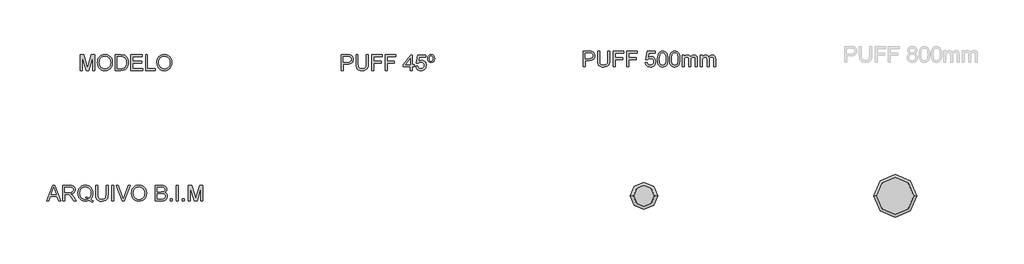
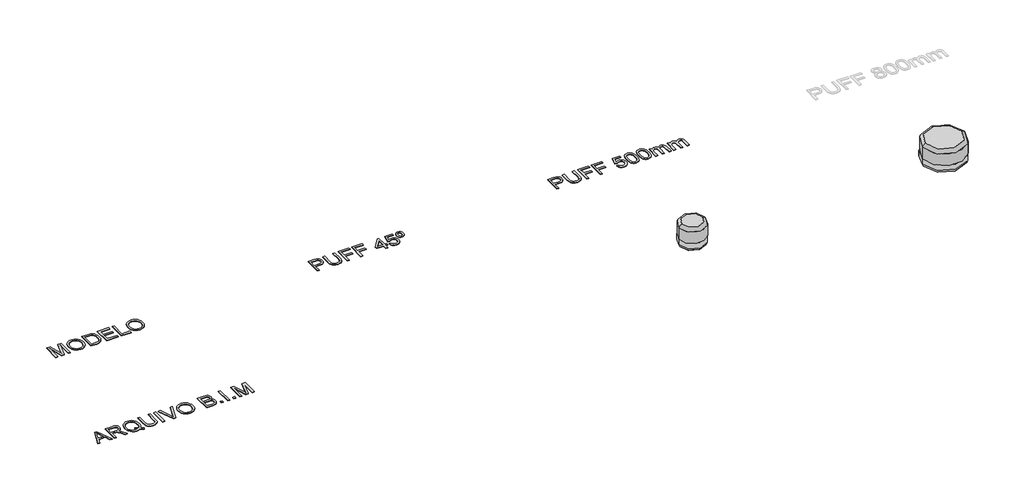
# One storey, part 1 of 4: 4 proxies, 2 furniture elements.
"""IFC4 building model written with IfcOpenShell, lengths in millimetres."""

from ifc_helpers import new_model, si_unit, origin, origin_with_axes, place, context, project, spatial, polyline, outline, extrude, transform, mapped, element, save
from components import furniture_e61064c9, furniture_355175a6

model = new_model("IFC4")

# Units and contexts
model_context = context("Model", 3, world=origin())
ifc_project = project(units=[si_unit("LENGTHUNIT", "METRE", prefix="MILLI")], contexts=[model_context])

# Site, building, storey
site = spatial("IfcSite", under=ifc_project)
building = spatial("IfcBuilding", under=site)
storey = spatial("IfcBuildingStorey", under=building, Name="Marelli - Linha BLEND - Planta Baixa", Elevation=0.0)

# Proxies
placement = place(None, origin())
element("IfcBuildingElementProxy", 1, Name="300mm Arial", ObjectType="300mm Arial", at=placement, inside=storey, context=model_context, shape_type="SweptSolid", body=[
    extrude(outline(polyline([(-14976.2946843, -1280.5663201), (-14976.2946843, -979.1973896), (-14864.6057106, -979.1973896), (-14819.5769543, -982.0668692), (-14799.4997945, -987.4287493), (-14782.9726958, -996.1567496), (-14769.6645646, -1008.6463433), (-14759.2443071, -1025.2930036), (-14752.5120666, -1044.9287051), (-14750.2679865, -1066.3854225), (-14751.7832004, -1084.8852883), (-14756.3288423, -1101.9044291), (-14763.9049122, -1117.4428449), (-14774.5114099, -1131.5005356), (-14789.0726392, -1143.1531978), (-14808.5129033, -1151.476528), (-14832.8322025, -1156.470526), (-14862.0305366, -1158.1351921), (-14938.623568, -1158.1351921), (-14938.623568, -1280.5663201), (-14976.2946843, -1280.5663201)]), holes=[polyline([(-14938.623568, -1120.4640758), (-14859.8232446, -1120.4640758), (-14826.4195595, -1117.005985), (-14804.3466397, -1106.6317127), (-14792.040987, -1089.9850525), (-14787.9391028, -1067.7097977), (-14790.3579269, -1050.7872259), (-14797.6143992, -1036.5134045), (-14808.8072089, -1025.7712502), (-14823.0350451, -1019.4436799), (-14860.7061614, -1016.8685059), (-14938.623568, -1016.8685059), (-14938.623568, -1120.4640758)])]), origin_with_axes(), (0.0, 0.0, 1.0), 10.0),
    extrude(outline(polyline([(-14500.6968409, -979.1973896), (-14463.0257246, -979.1973896), (-14463.0257246, -1153.0584205), (-14465.5825045, -1193.7737604), (-14473.2528441, -1225.1265034), (-14487.5818478, -1249.3147446), (-14510.11462, -1268.5365788), (-14540.906343, -1281.0905519), (-14580.0121991, -1285.2752096), (-14618.2627295, -1281.6331779), (-14648.8429204, -1270.7070826), (-14671.7619687, -1252.8740029), (-14687.0290715, -1228.5110178), (-14695.609919, -1195.8338995), (-14698.4702015, -1153.0584205), (-14698.4702015, -979.1973896), (-14660.7990852, -979.1973896), (-14660.7990852, -1151.7340454), (-14658.9412811, -1185.588386), (-14653.3678689, -1209.1604248), (-14643.2695082, -1225.4851883), (-14627.8368585, -1237.597703), (-14607.7137133, -1245.1024957), (-14583.5438662, -1247.6040933), (-14545.2289564, -1242.6560805), (-14530.8861572, -1236.4710644), (-14519.7531283, -1227.812042), (-14511.4160026, -1215.6351479), (-14505.4609128, -1198.8965171), (-14500.6968409, -1151.7340454), (-14500.6968409, -979.1973896)])), origin_with_axes(), (0.0, 0.0, 1.0), 10.0),
    extrude(outline(polyline([(-14397.1012711, -1280.5663201), (-14397.1012711, -979.1973896), (-14194.6190209, -979.1973896), (-14194.6190209, -1016.8685059), (-14359.4301548, -1016.8685059), (-14359.4301548, -1106.3374072), (-14218.1634686, -1106.3374072), (-14218.1634686, -1144.0085235), (-14359.4301548, -1144.0085235), (-14359.4301548, -1280.5663201), (-14397.1012711, -1280.5663201)])), origin_with_axes(), (0.0, 0.0, 1.0), 10.0),
    extrude(outline(polyline([(-14142.821236, -1280.5663201), (-14142.821236, -979.1973896), (-13940.3389859, -979.1973896), (-13940.3389859, -1016.8685059), (-14105.1501197, -1016.8685059), (-14105.1501197, -1106.3374072), (-13963.8834336, -1106.3374072), (-13963.8834336, -1144.0085235), (-14105.1501197, -1144.0085235), (-14105.1501197, -1280.5663201), (-14142.821236, -1280.5663201)])), origin_with_axes(), (0.0, 0.0, 1.0), 10.0),
    extrude(outline(polyline([(-13662.5145031, -1280.5663201), (-13662.5145031, -1209.932977), (-13799.0722997, -1209.932977), (-13799.0722997, -1172.2618607), (-13653.096724, -983.9062792), (-13624.8433868, -983.9062792), (-13624.8433868, -1172.2618607), (-13587.1722705, -1172.2618607), (-13587.1722705, -1209.932977), (-13624.8433868, -1209.932977), (-13624.8433868, -1280.5663201), (-13662.5145031, -1280.5663201)]), holes=[polyline([(-13662.5145031, -1172.2618607), (-13662.5145031, -1055.8639974), (-13752.7191683, -1172.2618607), (-13662.5145031, -1172.2618607)])]), origin_with_axes(), (0.0, 0.0, 1.0), 10.0),
    extrude(outline(polyline([(-13554.2100437, -1200.5151979), (-13516.5389274, -1195.8063084), (-13509.6227459, -1218.421854), (-13497.5562165, -1234.6178589), (-13480.3945214, -1244.3575347), (-13458.192843, -1247.6040933), (-13431.1903045, -1243.0883418), (-13410.9567948, -1229.5410873), (-13398.3200483, -1208.5258284), (-13394.1077994, -1181.6060634), (-13398.0533338, -1156.2589939), (-13409.889937, -1136.8716128), (-13429.7095795, -1124.56596), (-13457.6042318, -1120.4640758), (-13475.8787699, -1122.1011506), (-13490.6768232, -1127.0123753), (-13511.8300379, -1144.0085235), (-13549.5011542, -1139.2996339), (-13516.5389274, -983.9062792), (-13370.5633517, -983.9062792), (-13370.5633517, -1021.5773955), (-13486.0782982, -1021.5773955), (-13502.1915296, -1104.5715736), (-13475.2809617, -1088.237613), (-13447.0828067, -1082.7929595), (-13428.7369915, -1084.4806181), (-13411.8856968, -1089.5435941), (-13396.5289228, -1097.9818873), (-13382.6666694, -1109.7954979), (-13371.1910504, -1124.2624574), (-13362.9941797, -1140.6607973), (-13358.0760573, -1158.9905177), (-13356.4366831, -1179.2516186), (-13362.3411891, -1216.9227349), (-13369.7218217, -1233.716548), (-13380.0547072, -1249.1491977), (-13395.7080861, -1264.9543279), (-13413.9734272, -1276.2437066), (-13434.8507304, -1283.0173339), (-13458.3399958, -1285.2752096), (-13495.3397275, -1279.4718711), (-13511.0183982, -1272.217698), (-13524.8162723, -1262.0618557), (-13536.2964898, -1249.5101819), (-13545.0221909, -1235.0685143), (-13554.2100437, -1200.5151979)])), origin_with_axes(), (0.0, 0.0, 1.0), 10.0),
    extrude(outline(polyline([(-13264.6133371, -974.4885001), (-13237.2245226, -979.6572421), (-13215.3907262, -995.1634682), (-13201.0985107, -1019.7747737), (-13196.3344388, -1052.2587539), (-13201.1261018, -1084.6323694), (-13215.5010908, -1109.2068867), (-13237.307296, -1124.7131128), (-13264.3926079, -1129.8818548), (-13291.8090136, -1124.8142804), (-13313.7255835, -1109.6115569), (-13328.1005724, -1085.3589364), (-13332.8922354, -1053.1416706), (-13328.1281636, -1019.9955029), (-13313.8359481, -995.1634682), (-13292.0021517, -979.6572421), (-13264.6133371, -974.4885001)]), holes=[polyline([(-13264.6133371, -1002.7418373), (-13277.0385515, -1005.638908), (-13286.7966214, -1014.3301202), (-13293.1149947, -1029.5880259), (-13295.2211191, -1052.1851775), (-13293.0782065, -1074.3684618), (-13286.6494686, -1089.709141), (-13276.8546105, -1098.6486735), (-13264.6133371, -1101.6285176), (-13252.2800932, -1098.6486735), (-13242.5036292, -1089.709141), (-13236.1300737, -1074.1109444), (-13234.0055551, -1051.1551079), (-13236.1484678, -1029.60642), (-13242.5772056, -1014.5508494), (-13252.3720637, -1005.6940903), (-13264.6133371, -1002.7418373)])]), origin_with_axes(), (0.0, 0.0, 1.0), 10.0),
])
element("IfcBuildingElementProxy", 2, Name="300mm Arial", ObjectType="300mm Arial", at=placement, inside=storey, context=model_context, shape_type="SweptSolid", body=[
    extrude(outline(polyline([(-20609.419598, -3780.5663201), (-20489.1221856, -3479.1973896), (-20457.0428756, -3479.1973896), (-20336.7454632, -3780.5663201), (-20376.550295, -3780.5663201), (-20411.0576262, -3686.3885293), (-20535.1810114, -3686.3885293), (-20569.6147661, -3780.5663201), (-20609.419598, -3780.5663201)]), holes=[polyline([(-20521.3486483, -3648.717413), (-20424.8164128, -3648.717413), (-20451.9661041, -3574.6259792), (-20473.0825306, -3516.8685059), (-20491.8445123, -3568.1512561), (-20521.3486483, -3648.717413)])]), origin_with_axes(), (0.0, 0.0, 1.0), 10.0),
    extrude(outline(polyline([(-20296.4991729, -3780.5663201), (-20296.4991729, -3479.1973896), (-20166.6368286, -3479.1973896), (-20131.7340243, -3481.2299376), (-20106.3409696, -3487.3275817), (-20087.7813229, -3498.5847708), (-20073.3787428, -3516.0959537), (-20064.1357077, -3537.8101885), (-20061.054696, -3561.6765329), (-20066.1590587, -3591.3646099), (-20081.4721467, -3615.9759154), (-20093.0719259, -3626.0052983), (-20107.4538126, -3634.0205273), (-20144.5639089, -3644.0085235), (-20123.1531768, -3660.1217548), (-20092.6189712, -3698.8965171), (-20042.3662906, -3780.5663201), (-20086.144248, -3780.5663201), (-20125.3604687, -3718.0999573), (-20153.6873824, -3676.750021), (-20173.5897983, -3657.2154871), (-20191.5056515, -3650.0417882), (-20213.357842, -3648.717413), (-20258.8280566, -3648.717413), (-20258.8280566, -3780.5663201), (-20296.4991729, -3780.5663201)]), holes=[polyline([(-20258.8280566, -3611.0462967), (-20174.5095033, -3611.0462967), (-20150.293671, -3609.7127245), (-20131.5040981, -3605.7120078), (-20117.3590353, -3598.7774322), (-20107.0767336, -3588.6422832), (-20100.8135426, -3576.3826157), (-20098.7258123, -3563.0744845), (-20102.7081349, -3544.6987789), (-20114.6551027, -3529.8915286), (-20135.2105092, -3520.1242616), (-20165.0181478, -3516.8685059), (-20258.8280566, -3516.8685059), (-20258.8280566, -3611.0462967)])]), origin_with_axes(), (0.0, 0.0, 1.0), 10.0),
    extrude(outline(polyline([(-19768.7356626, -3744.4403081), (-19744.4002686, -3763.036743), (-19722.0146492, -3775.8574305), (-19732.1681923, -3803.4485802), (-19763.2358268, -3789.0460001), (-19794.1930967, -3768.205485), (-19829.0499157, -3781.0077785), (-19867.4016137, -3785.2752096), (-19905.9372527, -3780.3547879), (-19940.7572836, -3765.5935229), (-19969.9211287, -3741.9203165), (-19991.4882107, -3710.2640708), (-20004.814736, -3672.3630282), (-20009.2569111, -3629.9554312), (-20004.823933, -3587.511046), (-19991.5249989, -3549.0581805), (-19970.0406904, -3516.9512794), (-19941.0515892, -3493.5447874), (-19906.360317, -3479.2525719), (-19867.7694957, -3474.4885001), (-19828.8751718, -3479.3629365), (-19794.0091557, -3493.9862458), (-19765.0660397, -3517.3835407), (-19743.9404161, -3548.5799339), (-19731.0277581, -3585.9199564), (-19726.7235388, -3627.7481393), (-19729.3355009, -3662.5313819), (-19737.1713874, -3693.5990164), (-19750.2863806, -3720.9142546), (-19768.7356626, -3744.4403081)]), holes=[polyline([(-19857.0273415, -3694.3347804), (-19825.3527017, -3706.3093393), (-19799.784903, -3722.9559996), (-19784.3016695, -3705.4816049), (-19773.2422171, -3684.1076609), (-19766.6065456, -3658.8341679), (-19764.3946551, -3629.6611256), (-19767.521652, -3596.5057608), (-19776.9026429, -3567.8201623), (-19792.3077015, -3544.3308969), (-19813.5069014, -3526.7645316), (-19839.065503, -3515.8108452), (-19867.5487665, -3512.1596164), (-19889.033075, -3514.0059242), (-19908.6043972, -3519.5448474), (-19926.2627329, -3528.7763863), (-19942.0080823, -3541.7005406), (-19954.9483315, -3558.2897193), (-19964.1913666, -3578.5163313), (-19969.7371877, -3602.3803764), (-19971.5857948, -3629.8818548), (-19969.7578811, -3656.6659634), (-19964.2741401, -3680.1437324), (-19955.1345718, -3700.3151621), (-19942.3391761, -3717.1802523), (-19926.7018921, -3730.4906827), (-19909.0366585, -3739.998133), (-19889.3434755, -3745.7026032), (-19867.6223429, -3747.6040933), (-19846.7082515, -3745.6727128), (-19827.081747, -3739.8785714), (-19846.3771577, -3729.853787), (-19866.7394261, -3723.1767288), (-19857.0273415, -3694.3347804)])]), origin_with_axes(), (0.0, 0.0, 1.0), 10.0),
    extrude(outline(polyline([(-19472.4435037, -3479.1973896), (-19434.7723874, -3479.1973896), (-19434.7723874, -3653.0584205), (-19437.3291673, -3693.7737604), (-19444.9995069, -3725.1265034), (-19459.3285106, -3749.3147446), (-19481.8612828, -3768.5365788), (-19512.6530058, -3781.0905519), (-19551.7588619, -3785.2752096), (-19590.0093923, -3781.6331779), (-19620.5895832, -3770.7070826), (-19643.5086315, -3752.8740029), (-19658.7757343, -3728.5110178), (-19667.3565818, -3695.8338995), (-19670.2168643, -3653.0584205), (-19670.2168643, -3479.1973896), (-19632.545748, -3479.1973896), (-19632.545748, -3651.7340454), (-19630.6879439, -3685.588386), (-19625.1145317, -3709.1604248), (-19615.0161709, -3725.4851883), (-19599.5835212, -3737.597703), (-19579.4603761, -3745.1024957), (-19555.290529, -3747.6040933), (-19516.9756192, -3742.6560805), (-19502.6328199, -3736.4710644), (-19491.499791, -3727.812042), (-19483.1626653, -3715.6351479), (-19477.2075755, -3698.8965171), (-19472.4435037, -3651.7340454), (-19472.4435037, -3479.1973896)])), origin_with_axes(), (0.0, 0.0, 1.0), 10.0),
    extrude(outline(polyline([(-19364.1390443, -3780.5663201), (-19364.1390443, -3479.1973896), (-19326.467928, -3479.1973896), (-19326.467928, -3780.5663201), (-19364.1390443, -3780.5663201)])), origin_with_axes(), (0.0, 0.0, 1.0), 10.0),
    extrude(outline(polyline([(-19162.0982526, -3780.5663201), (-19282.027783, -3479.1973896), (-19241.7079163, -3479.1973896), (-19161.436065, -3696.3213432), (-19145.1756808, -3745.2496485), (-19129.1360258, -3696.3213432), (-19048.6434453, -3479.1973896), (-19008.3235786, -3479.1973896), (-19123.1763375, -3780.5663201), (-19162.0982526, -3780.5663201)])), origin_with_axes(), (0.0, 0.0, 1.0), 10.0),
    extrude(outline(polyline([(-18987.4278813, -3633.8549804), (-18984.9170866, -3598.5061192), (-18977.3847028, -3567.213157), (-18964.8307297, -3539.9760937), (-18947.2551674, -3516.7949295), (-18925.711078, -3498.2858666), (-18901.2515239, -3485.0651074), (-18873.8765049, -3477.1326519), (-18843.5860211, -3474.4885001), (-18804.0571008, -3479.454907), (-18768.6116705, -3494.3541278), (-18739.1811109, -3518.1376988), (-18717.6968024, -3549.7571563), (-18704.5634152, -3587.68579), (-18700.1856194, -3630.3968896), (-18704.7933414, -3673.6782064), (-18718.6165074, -3712.140269), (-18740.8917622, -3743.8149087), (-18770.8557507, -3766.733957), (-18805.9976783, -3780.6398965), (-18843.8067503, -3785.2752096), (-18883.942676, -3780.1524528), (-18919.5904413, -3764.7841825), (-18948.9474246, -3740.5591531), (-18970.2110039, -3708.8661192), (-18983.1236619, -3672.3998164), (-18987.4278813, -3633.8549804)]), holes=[polyline([(-18949.7567649, -3634.2228624), (-18947.873669, -3659.1974513), (-18942.2243811, -3681.3669401), (-18932.8089013, -3700.7313286), (-18919.6272295, -3717.2906169), (-18903.6036694, -3730.5527628), (-18885.6625243, -3740.0257242), (-18865.8037944, -3745.709501), (-18844.0274795, -3747.6040933), (-18821.8786842, -3745.6911069), (-18801.7854294, -3739.9521478), (-18783.7477154, -3730.3872159), (-18767.7655419, -3716.9963113), (-18754.6804392, -3700.0875351), (-18745.3339373, -3679.9689885), (-18739.7260361, -3656.6406715), (-18737.8567357, -3630.102584), (-18741.0573091, -3596.7540812), (-18750.6590292, -3567.9305269), (-18766.4135756, -3544.358488), (-18788.0726281, -3526.7645316), (-18814.2014468, -3515.8108452), (-18843.3652919, -3512.1596164), (-18864.3851494, -3513.9185522), (-18883.8874937, -3519.1953595), (-18901.8723248, -3527.9900385), (-18918.3396426, -3540.302589), (-18932.0846336, -3556.7262208), (-18941.9024844, -3577.8541437), (-18947.7931948, -3603.6863575), (-18949.7567649, -3634.2228624)])]), origin_with_axes(), (0.0, 0.0, 1.0), 10.0),
    extrude(outline(polyline([(-18530.665596, -3780.5663201), (-18530.665596, -3479.1973896), (-18415.6656844, -3479.1973896), (-18384.0370298, -3481.4138786), (-18359.3429509, -3488.0633457), (-18340.4154222, -3499.3113377), (-18326.0864185, -3515.3234015), (-18317.0641126, -3534.1589597), (-18314.0566773, -3553.8774346), (-18316.585866, -3572.0232141), (-18324.1734321, -3589.0837416), (-18336.874558, -3604.0105535), (-18354.7444259, -3615.7551862), (-18333.3980732, -3626.9020107), (-18317.6251326, -3643.8613707), (-18307.8854568, -3665.5112261), (-18304.6388982, -3690.7295368), (-18306.8553872, -3711.7447958), (-18313.5048543, -3731.2333445), (-18323.4284711, -3747.8064284), (-18335.4674094, -3760.0752929), (-18350.2102804, -3768.9596431), (-18368.2456952, -3775.3791839), (-18416.5486011, -3780.5663201), (-18530.665596, -3780.5663201)]), holes=[polyline([(-18492.9944797, -3601.6285176), (-18424.2005466, -3601.6285176), (-18384.0278328, -3598.3911561), (-18369.9655435, -3592.8085468), (-18359.8579857, -3584.4484284), (-18353.7603416, -3573.4395597), (-18351.7277936, -3559.9106994), (-18353.6223859, -3546.7773121), (-18359.3061627, -3535.3361821), (-18368.5216067, -3526.4058467), (-18381.0112004, -3520.8048433), (-18429.424471, -3516.8685059), (-18492.9944797, -3516.8685059), (-18492.9944797, -3601.6285176)]), polyline([(-18492.9944797, -3742.8952038), (-18415.7392607, -3742.8952038), (-18387.7802291, -3741.4236758), (-18364.1254168, -3733.2199073), (-18348.4536438, -3716.4812765), (-18343.8459218, -3704.6538704), (-18342.3100145, -3691.0974188), (-18344.1126363, -3675.3520694), (-18349.5205016, -3661.814012), (-18358.9658718, -3651.2282076), (-18372.8810083, -3644.3396173), (-18392.5902862, -3640.5596298), (-18419.4180807, -3639.2996339), (-18492.9944797, -3639.2996339), (-18492.9944797, -3742.8952038)])]), origin_with_axes(), (0.0, 0.0, 1.0), 10.0),
    extrude(outline(polyline([(-18248.1322237, -3780.5663201), (-18248.1322237, -3742.8952038), (-18210.4611074, -3742.8952038), (-18210.4611074, -3780.5663201), (-18248.1322237, -3780.5663201)])), origin_with_axes(), (0.0, 0.0, 1.0), 10.0),
    extrude(outline(polyline([(-18130.4099853, -3780.5663201), (-18130.4099853, -3479.1973896), (-18092.738869, -3479.1973896), (-18092.738869, -3780.5663201), (-18130.4099853, -3780.5663201)])), origin_with_axes(), (0.0, 0.0, 1.0), 10.0),
    extrude(outline(polyline([(-18012.6877468, -3780.5663201), (-18012.6877468, -3742.8952038), (-17975.0166305, -3742.8952038), (-17975.0166305, -3780.5663201), (-18012.6877468, -3780.5663201)])), origin_with_axes(), (0.0, 0.0, 1.0), 10.0),
    extrude(outline(polyline([(-17899.6743979, -3780.5663201), (-17899.6743979, -3479.1973896), (-17834.8535904, -3479.1973896), (-17773.196568, -3691.6124536), (-17760.7621565, -3735.9790223), (-17747.2976755, -3687.9336337), (-17686.6707227, -3479.1973896), (-17621.8499152, -3479.1973896), (-17621.8499152, -3780.5663201), (-17659.5210315, -3780.5663201), (-17659.5210315, -3516.8685059), (-17735.2311461, -3780.5663201), (-17786.293167, -3780.5663201), (-17862.0032816, -3516.8685059), (-17862.0032816, -3780.5663201), (-17899.6743979, -3780.5663201)])), origin_with_axes(), (0.0, 0.0, 1.0), 10.0),
])
element("IfcBuildingElementProxy", 3, Name="300mm Arial", ObjectType="300mm Arial", at=placement, inside=storey, context=model_context, shape_type="SweptSolid", body=[
    extrude(outline(polyline([(-19966.8769052, -1280.5663201), (-19966.8769052, -979.1973896), (-19902.0560977, -979.1973896), (-19840.3990753, -1191.6124536), (-19827.9646638, -1235.9790223), (-19814.5001828, -1187.9336337), (-19753.87323, -979.1973896), (-19689.0524225, -979.1973896), (-19689.0524225, -1280.5663201), (-19726.7235388, -1280.5663201), (-19726.7235388, -1016.8685059), (-19802.4336534, -1280.5663201), (-19853.4956743, -1280.5663201), (-19929.2057889, -1016.8685059), (-19929.2057889, -1280.5663201), (-19966.8769052, -1280.5663201)])), origin_with_axes(), (0.0, 0.0, 1.0), 10.0),
    extrude(outline(polyline([(-19637.2546375, -1133.8549804), (-19634.7438429, -1098.5061192), (-19627.2114591, -1067.213157), (-19614.657486, -1039.9760937), (-19597.0819237, -1016.7949295), (-19575.5378343, -998.2858666), (-19551.0782802, -985.0651074), (-19523.7032612, -977.1326519), (-19493.4127774, -974.4885001), (-19453.883857, -979.454907), (-19418.4384268, -994.3541278), (-19389.0078672, -1018.1376988), (-19367.5235587, -1049.7571563), (-19354.3901714, -1087.68579), (-19350.0123757, -1130.3968896), (-19354.6200977, -1173.6782064), (-19368.4432637, -1212.140269), (-19390.7185185, -1243.8149087), (-19420.682507, -1266.733957), (-19455.8244346, -1280.6398965), (-19493.6335066, -1285.2752096), (-19533.7694323, -1280.1524528), (-19569.4171976, -1264.7841825), (-19598.7741808, -1240.5591531), (-19620.0377602, -1208.8661192), (-19632.9504182, -1172.3998164), (-19637.2546375, -1133.8549804)]), holes=[polyline([(-19599.5835212, -1134.2228624), (-19597.7004253, -1159.1974513), (-19592.0511374, -1181.3669401), (-19582.6356576, -1200.7313286), (-19569.4539858, -1217.2906169), (-19553.4304257, -1230.5527628), (-19535.4892806, -1240.0257242), (-19515.6305507, -1245.709501), (-19493.8542358, -1247.6040933), (-19471.7054404, -1245.6911069), (-19451.6121857, -1239.9521478), (-19433.5744716, -1230.3872159), (-19417.5922982, -1216.9963113), (-19404.5071955, -1200.0875351), (-19395.1606936, -1179.9689885), (-19389.5527924, -1156.6406715), (-19387.683492, -1130.102584), (-19390.8840654, -1096.7540812), (-19400.4857854, -1067.9305269), (-19416.2403319, -1044.358488), (-19437.8993843, -1026.7645316), (-19464.0282031, -1015.8108452), (-19493.1920482, -1012.1596164), (-19514.2119057, -1013.9185522), (-19533.71425, -1019.1953595), (-19551.699081, -1027.9900385), (-19568.1663988, -1040.302589), (-19581.9113899, -1056.7262208), (-19591.7292406, -1077.8541437), (-19597.6199511, -1103.6863575), (-19599.5835212, -1134.2228624)])]), origin_with_axes(), (0.0, 0.0, 1.0), 10.0),
    extrude(outline(polyline([(-19298.2145908, -1280.5663201), (-19298.2145908, -979.1973896), (-19194.2511389, -979.1973896), (-19140.4667912, -983.5383972), (-19116.444097, -991.9077126), (-19096.173799, -1005.0962821), (-19075.333284, -1028.0521186), (-19060.4892455, -1056.5997614), (-19051.6048953, -1090.1873876), (-19048.6434453, -1128.2631741), (-19050.6484021, -1160.6091985), (-19056.6632727, -1189.0740679), (-19065.8235344, -1213.3082943), (-19077.2646645, -1232.9623899), (-19090.4348399, -1248.477813), (-19104.7822377, -1260.2960221), (-19121.254154, -1269.0608107), (-19140.797885, -1275.4159721), (-19189.2479438, -1280.5663201), (-19298.2145908, -1280.5663201)]), holes=[polyline([(-19260.5434745, -1242.8952038), (-19193.8832569, -1242.8952038), (-19166.3105014, -1241.5340404), (-19145.39641, -1237.4505502), (-19129.6142724, -1230.8838566), (-19117.4373783, -1222.0730828), (-19104.3499764, -1205.7667134), (-19094.5183301, -1184.6594839), (-19088.3655037, -1158.6594239), (-19086.3145616, -1127.6745629), (-19090.3336724, -1086.6189322), (-19102.3910047, -1056.3054558), (-19120.2056904, -1035.4833349), (-19141.4968608, -1022.9017706), (-19163.1651104, -1018.3768221), (-19194.9133265, -1016.8685059), (-19260.5434745, -1016.8685059), (-19260.5434745, -1242.8952038)])]), origin_with_axes(), (0.0, 0.0, 1.0), 10.0),
    extrude(outline(polyline([(-18996.8456603, -1280.5663201), (-18996.8456603, -979.1973896), (-18780.2367416, -979.1973896), (-18780.2367416, -1016.8685059), (-18959.174544, -1016.8685059), (-18959.174544, -1106.3374072), (-18789.6545206, -1106.3374072), (-18789.6545206, -1144.0085235), (-18959.174544, -1144.0085235), (-18959.174544, -1242.8952038), (-18775.527852, -1242.8952038), (-18775.527852, -1280.5663201), (-18996.8456603, -1280.5663201)])), origin_with_axes(), (0.0, 0.0, 1.0), 10.0),
    extrude(outline(polyline([(-18719.0211776, -1280.5663201), (-18719.0211776, -979.1973896), (-18681.3500613, -979.1973896), (-18681.3500613, -1242.8952038), (-18530.665596, -1242.8952038), (-18530.665596, -1280.5663201), (-18719.0211776, -1280.5663201)])), origin_with_axes(), (0.0, 0.0, 1.0), 10.0),
    extrude(outline(polyline([(-18502.4122588, -1133.8549804), (-18499.9014642, -1098.5061192), (-18492.3690803, -1067.213157), (-18479.8151073, -1039.9760937), (-18462.2395449, -1016.7949295), (-18440.6954556, -998.2858666), (-18416.2359014, -985.0651074), (-18388.8608825, -977.1326519), (-18358.5703987, -974.4885001), (-18319.0414783, -979.454907), (-18283.5960481, -994.3541278), (-18254.1654885, -1018.1376988), (-18232.6811799, -1049.7571563), (-18219.5477927, -1087.68579), (-18215.169997, -1130.3968896), (-18219.777719, -1173.6782064), (-18233.6008849, -1212.140269), (-18255.8761397, -1243.8149087), (-18285.8401283, -1266.733957), (-18320.9820558, -1280.6398965), (-18358.7911279, -1285.2752096), (-18398.9270536, -1280.1524528), (-18434.5748189, -1264.7841825), (-18463.9318021, -1240.5591531), (-18485.1953814, -1208.8661192), (-18498.1080395, -1172.3998164), (-18502.4122588, -1133.8549804)]), holes=[polyline([(-18464.7411425, -1134.2228624), (-18462.8580465, -1159.1974513), (-18457.2087587, -1181.3669401), (-18447.7932788, -1200.7313286), (-18434.6116071, -1217.2906169), (-18418.5880469, -1230.5527628), (-18400.6469019, -1240.0257242), (-18380.7881719, -1245.709501), (-18359.0118571, -1247.6040933), (-18336.8630617, -1245.6911069), (-18316.769807, -1239.9521478), (-18298.7320929, -1230.3872159), (-18282.7499195, -1216.9963113), (-18269.6648168, -1200.0875351), (-18260.3183148, -1179.9689885), (-18254.7104137, -1156.6406715), (-18252.8411133, -1130.102584), (-18256.0416866, -1096.7540812), (-18265.6434067, -1067.9305269), (-18281.3979532, -1044.358488), (-18303.0570056, -1026.7645316), (-18329.1858243, -1015.8108452), (-18358.3496695, -1012.1596164), (-18379.369527, -1013.9185522), (-18398.8718713, -1019.1953595), (-18416.8567023, -1027.9900385), (-18433.3240201, -1040.302589), (-18447.0690112, -1056.7262208), (-18456.8868619, -1077.8541437), (-18462.7775724, -1103.6863575), (-18464.7411425, -1134.2228624)])]), origin_with_axes(), (0.0, 0.0, 1.0), 10.0),
])
element("IfcBuildingElementProxy", 4, Name="300mm Arial", ObjectType="300mm Arial", at=placement, inside=storey, context=model_context, shape_type="SweptSolid", body=[
    extrude(outline(polyline([(-10362.4236264, -1211.269545), (-10362.4236264, -909.9006146), (-10250.7346527, -909.9006146), (-10205.7058965, -912.7700941), (-10185.6287366, -918.1319742), (-10169.101638, -926.8599745), (-10155.7935068, -939.3495683), (-10145.3732493, -955.9962286), (-10138.6410088, -975.6319301), (-10136.3969286, -997.0886474), (-10137.9121426, -1015.5885133), (-10142.4577845, -1032.6076541), (-10150.0338543, -1048.1460698), (-10160.6403521, -1062.2037606), (-10175.2015813, -1073.8564228), (-10194.6418455, -1082.1797529), (-10218.9611446, -1087.173751), (-10248.1594787, -1088.838417), (-10324.7525101, -1088.838417), (-10324.7525101, -1211.269545), (-10362.4236264, -1211.269545)]), holes=[polyline([(-10324.7525101, -1051.1673007), (-10245.9521868, -1051.1673007), (-10212.5485016, -1047.70921), (-10190.4755819, -1037.3349377), (-10178.1699291, -1020.6882774), (-10174.0680449, -998.4130226), (-10176.486869, -981.4904508), (-10183.7433414, -967.2166294), (-10194.9361511, -956.4744752), (-10209.1639872, -950.1469048), (-10246.8351035, -947.5717309), (-10324.7525101, -947.5717309), (-10324.7525101, -1051.1673007)])]), origin_with_axes(), (0.0, 0.0, 1.0), 10.0),
    extrude(outline(polyline([(-9886.8257831, -909.9006146), (-9849.1546668, -909.9006146), (-9849.1546668, -1083.7616455), (-9851.7114466, -1124.4769853), (-9859.3817862, -1155.8297283), (-9873.7107899, -1180.0179695), (-9896.2435621, -1199.2398038), (-9927.0352851, -1211.7937769), (-9966.1411412, -1215.9784346), (-10004.3916717, -1212.3364028), (-10034.9718625, -1201.4103075), (-10057.8909108, -1183.5772278), (-10073.1580136, -1159.2142427), (-10081.7388612, -1126.5371245), (-10084.5991437, -1083.7616455), (-10084.5991437, -909.9006146), (-10046.9280274, -909.9006146), (-10046.9280274, -1082.4372703), (-10045.0702233, -1116.2916109), (-10039.4968111, -1139.8636498), (-10029.3984503, -1156.1884133), (-10013.9658006, -1168.300928), (-9993.8426555, -1175.8057207), (-9969.6728084, -1178.3073183), (-9931.3578986, -1173.3593054), (-9917.0150993, -1167.1742894), (-9905.8820704, -1158.5152669), (-9897.5449447, -1146.3383729), (-9891.5898549, -1129.5997421), (-9886.8257831, -1082.4372703), (-9886.8257831, -909.9006146)])), origin_with_axes(), (0.0, 0.0, 1.0), 10.0),
    extrude(outline(polyline([(-9783.2302132, -1211.269545), (-9783.2302132, -909.9006146), (-9580.7479631, -909.9006146), (-9580.7479631, -947.5717309), (-9745.5590969, -947.5717309), (-9745.5590969, -1037.0406321), (-9604.2924108, -1037.0406321), (-9604.2924108, -1074.7117484), (-9745.5590969, -1074.7117484), (-9745.5590969, -1211.269545), (-9783.2302132, -1211.269545)])), origin_with_axes(), (0.0, 0.0, 1.0), 10.0),
    extrude(outline(polyline([(-9528.9501782, -1211.269545), (-9528.9501782, -909.9006146), (-9326.467928, -909.9006146), (-9326.467928, -947.5717309), (-9491.2790618, -947.5717309), (-9491.2790618, -1037.0406321), (-9350.0123757, -1037.0406321), (-9350.0123757, -1074.7117484), (-9491.2790618, -1074.7117484), (-9491.2790618, -1211.269545), (-9528.9501782, -1211.269545)])), origin_with_axes(), (0.0, 0.0, 1.0), 10.0),
    extrude(outline(polyline([(-9171.0745732, -1131.2184229), (-9133.4034569, -1126.5095333), (-9126.4872754, -1149.125079), (-9114.420746, -1165.3210838), (-9097.2590509, -1175.0607596), (-9075.0573725, -1178.3073183), (-9048.0548341, -1173.7915668), (-9027.8213243, -1160.2443123), (-9015.1845778, -1139.2290533), (-9010.9723289, -1112.3092883), (-9014.9178633, -1086.9622188), (-9026.7544665, -1067.5748377), (-9046.574109, -1055.269185), (-9074.4687613, -1051.1673007), (-9092.7432994, -1052.8043756), (-9107.5413527, -1057.7156002), (-9128.6945674, -1074.7117484), (-9166.3656837, -1070.0028589), (-9133.4034569, -914.6095041), (-8987.4278813, -914.6095041), (-8987.4278813, -952.2806204), (-9102.9428277, -952.2806204), (-9119.0560591, -1035.2747985), (-9092.1454912, -1018.9408379), (-9063.9473363, -1013.4961844), (-9045.601521, -1015.1838431), (-9028.7502264, -1020.246819), (-9013.3934523, -1028.6851123), (-8999.5311989, -1040.4987229), (-8988.0555799, -1054.9656823), (-8979.8587092, -1071.3640223), (-8974.9405868, -1089.6937427), (-8973.3012126, -1109.9548435), (-8979.2057187, -1147.6259599), (-8986.5863512, -1164.4197729), (-8996.9192367, -1179.8524226), (-9012.5726156, -1195.6575528), (-9030.8379567, -1206.9469316), (-9051.7152599, -1213.7205588), (-9075.2045253, -1215.9784346), (-9112.204257, -1210.1750961), (-9127.8829277, -1202.920923), (-9141.6808018, -1192.7650807), (-9153.1610193, -1180.2134068), (-9161.8867204, -1165.7717393), (-9171.0745732, -1131.2184229)])), origin_with_axes(), (0.0, 0.0, 1.0), 10.0),
    extrude(outline(polyline([(-8940.3389859, -1063.013101), (-8937.5706739, -1014.7745743), (-8929.2657378, -976.3033147), (-8915.5069512, -947.0107108), (-8896.3770874, -926.3081516), (-8871.7381908, -914.0024988), (-8841.4523056, -909.9006146), (-8818.2389517, -912.3286357), (-8797.4536189, -919.6126992), (-8780.0711947, -931.4676965), (-8767.0665661, -947.6085191), (-8757.2441169, -967.8972111), (-8749.4082304, -992.1958169), (-8744.2762765, -1023.0519192), (-8742.5656253, -1063.013101), (-8745.3063461, -1110.9757161), (-8753.5285087, -1149.3550052), (-8767.2045219, -1178.6752002), (-8786.3067945, -1199.460533), (-8811.0008734, -1211.8489592), (-8841.4523056, -1215.9784346), (-8862.2008501, -1214.1850098), (-8880.5949499, -1208.8047357), (-8896.6346048, -1199.837612), (-8910.3198151, -1187.2836389), (-8923.4532023, -1164.5899184), (-8932.8341932, -1136.3135885), (-8938.4627877, -1102.4546494), (-8940.3389859, -1063.013101)]), holes=[polyline([(-8902.6678696, -1062.9395246), (-8898.2532856, -1122.1961169), (-8892.7350557, -1142.4641156), (-8885.0095338, -1156.4919159), (-8865.2910589, -1172.8534677), (-8841.4523056, -1178.3073183), (-8817.6135523, -1172.8350736), (-8797.8950773, -1156.4183395), (-8790.1695554, -1142.3675466), (-8784.6513255, -1122.1041464), (-8780.2367416, -1062.9395246), (-8784.5041727, -1005.0165044), (-8789.8384616, -984.8151844), (-8797.3064661, -970.453991), (-8816.9881529, -953.2922959), (-8841.893764, -947.5717309), (-8865.4749999, -952.6117142), (-8884.4209226, -967.7316642), (-8892.4039619, -983.366649), (-8898.1061328, -1004.4462873), (-8902.6678696, -1062.9395246)])]), origin_with_axes(), (0.0, 0.0, 1.0), 10.0),
    extrude(outline(polyline([(-8709.6033985, -1063.013101), (-8706.8350865, -1014.7745743), (-8698.5301504, -976.3033147), (-8684.7713638, -947.0107108), (-8665.6415001, -926.3081516), (-8641.0026034, -914.0024988), (-8610.7167182, -909.9006146), (-8587.5033643, -912.3286357), (-8566.7180316, -919.6126992), (-8549.3356073, -931.4676965), (-8536.3309788, -947.6085191), (-8526.5085295, -967.8972111), (-8518.672643, -992.1958169), (-8513.5406892, -1023.0519192), (-8511.8300379, -1063.013101), (-8514.5707588, -1110.9757161), (-8522.7929213, -1149.3550052), (-8536.4689345, -1178.6752002), (-8555.5712071, -1199.460533), (-8580.265286, -1211.8489592), (-8610.7167182, -1215.9784346), (-8631.4652627, -1214.1850098), (-8649.8593625, -1208.8047357), (-8665.8990175, -1199.837612), (-8679.5842277, -1187.2836389), (-8692.7176149, -1164.5899184), (-8702.0986058, -1136.3135885), (-8707.7272003, -1102.4546494), (-8709.6033985, -1063.013101)]), holes=[polyline([(-8671.9322822, -1062.9395246), (-8667.5176982, -1122.1961169), (-8661.9994683, -1142.4641156), (-8654.2739464, -1156.4919159), (-8634.5554715, -1172.8534677), (-8610.7167182, -1178.3073183), (-8586.8779649, -1172.8350736), (-8567.15949, -1156.4183395), (-8559.4339681, -1142.3675466), (-8553.9157381, -1122.1041464), (-8549.5011542, -1062.9395246), (-8553.7685853, -1005.0165044), (-8559.1028743, -984.8151844), (-8566.5708788, -970.453991), (-8586.2525655, -953.2922959), (-8611.1581766, -947.5717309), (-8634.7394125, -952.6117142), (-8653.6853352, -967.7316642), (-8661.6683745, -983.366649), (-8667.3705455, -1004.4462873), (-8671.9322822, -1062.9395246)])]), origin_with_axes(), (0.0, 0.0, 1.0), 10.0),
    extrude(outline(polyline([(-8469.450032, -1211.269545), (-8469.450032, -989.9517367), (-8431.7789157, -989.9517367), (-8431.7789157, -1026.3720542), (-8420.4481503, -1009.6426205), (-8405.8800233, -996.5368244), (-8388.5711754, -988.0663415), (-8369.0182474, -985.2428472), (-8348.0673677, -988.1215238), (-8331.2735547, -996.7575536), (-8318.7287786, -1010.5807196), (-8310.5250101, -1029.0208046), (-8296.7938147, -1009.8679482), (-8281.1312387, -996.1873365), (-8263.5372823, -987.9789695), (-8244.0119454, -985.2428472), (-8215.6942288, -989.7953869), (-8194.7525462, -1003.4530059), (-8181.8122971, -1026.5835864), (-8177.4988807, -1059.5550102), (-8177.4988807, -1211.269545), (-8215.169997, -1211.269545), (-8215.169997, -1075.741818), (-8218.6648759, -1044.2879074), (-8223.5761006, -1035.6150894), (-8231.3200166, -1028.8000754), (-8241.2804216, -1024.3854915), (-8252.8411133, -1022.9139635), (-8273.249367, -1026.6847539), (-8289.8868302, -1037.9971253), (-8300.9508812, -1057.6236297), (-8304.6388982, -1086.3368195), (-8304.6388982, -1211.269545), (-8342.3100145, -1211.269545), (-8342.3100145, -1071.5479633), (-8344.4897153, -1050.2475957), (-8351.0288178, -1035.0540693), (-8362.5343272, -1025.9489899), (-8379.6132488, -1022.9139635), (-8394.1261935, -1024.9373145), (-8407.4987041, -1031.0073674), (-8418.5351639, -1040.9769695), (-8426.0399566, -1054.6989679), (-8430.344176, -1073.7368611), (-8431.7789157, -1099.6541477), (-8431.7789157, -1211.269545), (-8469.450032, -1211.269545)])), origin_with_axes(), (0.0, 0.0, 1.0), 10.0),
    extrude(outline(polyline([(-8120.9922062, -1211.269545), (-8120.9922062, -989.9517367), (-8083.3210899, -989.9517367), (-8083.3210899, -1026.3720542), (-8071.9903245, -1009.6426205), (-8057.4221974, -996.5368244), (-8040.1133496, -988.0663415), (-8020.5604215, -985.2428472), (-7999.6095419, -988.1215238), (-7982.8157288, -996.7575536), (-7970.2709528, -1010.5807196), (-7962.0671843, -1029.0208046), (-7948.3359888, -1009.8679482), (-7932.6734129, -996.1873365), (-7915.0794565, -987.9789695), (-7895.5541196, -985.2428472), (-7867.236403, -989.7953869), (-7846.2947204, -1003.4530059), (-7833.3544712, -1026.5835864), (-7829.0410548, -1059.5550102), (-7829.0410548, -1211.269545), (-7866.7121711, -1211.269545), (-7866.7121711, -1075.741818), (-7870.2070501, -1044.2879074), (-7875.1182747, -1035.6150894), (-7882.8621907, -1028.8000754), (-7892.8225958, -1024.3854915), (-7904.3832875, -1022.9139635), (-7924.7915411, -1026.6847539), (-7941.4290044, -1037.9971253), (-7952.4930554, -1057.6236297), (-7956.1810724, -1086.3368195), (-7956.1810724, -1211.269545), (-7993.8521887, -1211.269545), (-7993.8521887, -1071.5479633), (-7996.0318895, -1050.2475957), (-8002.570992, -1035.0540693), (-8014.0765014, -1025.9489899), (-8031.155423, -1022.9139635), (-8045.6683677, -1024.9373145), (-8059.0408782, -1031.0073674), (-8070.0773381, -1040.9769695), (-8077.5821308, -1054.6989679), (-8081.8863501, -1073.7368611), (-8083.3210899, -1099.6541477), (-8083.3210899, -1211.269545), (-8120.9922062, -1211.269545)])), origin_with_axes(), (0.0, 0.0, 1.0), 10.0),
])

# Furniture
furniture_shape = furniture_e61064c9(model_context)
element("IfcFurniture", 5, ObjectType="Mobiliário_Mobiliário de Escritório_Puff Blend Redondo 500mm_Marelli : Mobiliário_Mobiliário de Escritório_Puff Blend Redondo 500mm_Marelli", at=placement, inside=storey, context=model_context, shape_type="MappedRepresentation", body=[
    mapped(furniture_shape, transform((-9198.0867854, -3680.5663201, 0.0), x_axis=(1.0, 0.0, 0.0), y_axis=(0.0, 1.0, 0.0), z_axis=(0.0, 0.0, 1.0))),
])
furniture_2_shape = furniture_355175a6(model_context)
element("IfcFurniture", 6, ObjectType="Mobiliário_Mobiliário de Escritório_Puff Blend Redondo 800mm_Marelli : Mobiliário_Mobiliário de Escritório_Puff Blend Redondo 800mm_Marelli", at=placement, inside=storey, context=model_context, shape_type="MappedRepresentation", body=[
    mapped(furniture_2_shape, transform((-4398.0867854, -3680.5663201, 0.0), x_axis=(1.0, 0.0, 0.0), y_axis=(0.0, 1.0, 0.0), z_axis=(0.0, 0.0, 1.0))),
])

save(model, "model.ifc")
